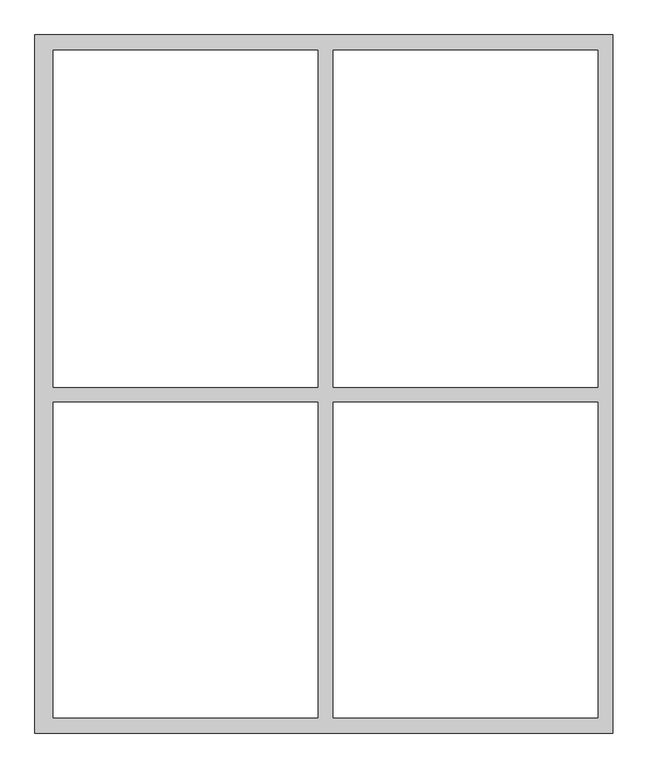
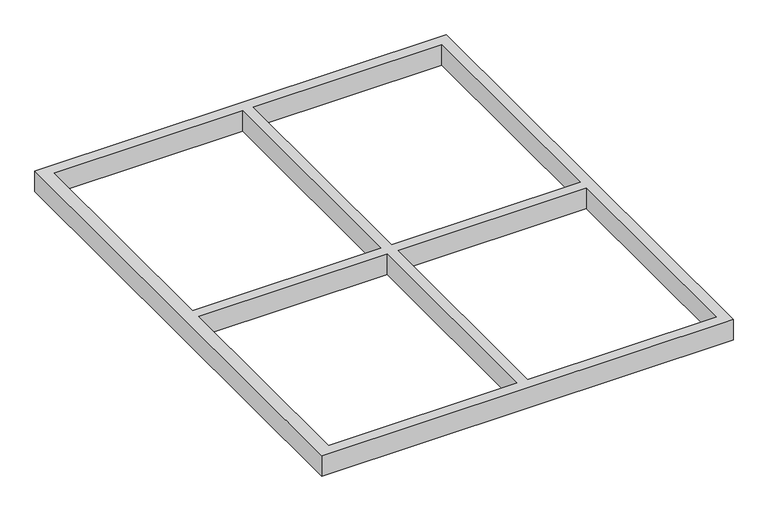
"""IFC4 building model written with IfcOpenShell, lengths in millimetres: proxy geometry, Витраж потолок : Витраж потолок."""

from ifc_helpers import new_model, si_unit, frame, origin, place, context, project, spatial, polyline, outline, extrude, source, transform, mapped, element, save


def generic_models_366e0e44(model_context):
    return source(origin(), model_context, "Body", "SweptSolid", [
        extrude(outline(polyline([(9345.1019042, 1950.3002517), (7445.0, 1950.3002517), (7445.0, 4245.2487567), (9345.1019042, 4245.2487567), (9345.1019042, 1950.3002517)]), holes=[polyline([(8375.1019042, 2000.3002517), (8375.1019042, 3037.8002517), (7505.1019042, 3037.8002517), (7505.1019042, 2000.3002517), (8375.1019042, 2000.3002517)]), polyline([(7505.1019042, 3087.8002517), (8375.1019042, 3087.8002517), (8375.1019042, 4195.2487567), (7505.1019042, 4195.2487567), (7505.1019042, 3087.8002517)]), polyline([(8425.1019042, 4195.2487567), (8425.1019042, 3087.8002517), (9295.1019042, 3087.8002517), (9295.1019042, 4195.2487567), (8425.1019042, 4195.2487567)]), polyline([(9295.1019042, 3037.8002517), (8425.1019042, 3037.8002517), (8425.1019042, 2000.3002517), (9295.1019042, 2000.3002517), (9295.1019042, 3037.8002517)])]), frame((0.0, 0.0, 2950.0), z_axis=(0.0, 0.0, 1.0), x_axis=(1.0, 0.0, 0.0)), (0.0, 0.0, 1.0), 100.0),
    ])


if __name__ == "__main__":
    model = new_model("IFC4")
    model_context = context("Model", 3, world=origin())
    ifc_project = project(units=[si_unit("LENGTHUNIT", "METRE", prefix="MILLI")], contexts=[model_context])
    site = spatial("IfcSite", under=ifc_project)
    building = spatial("IfcBuilding", under=site)
    placement = place(None, origin())
    generic_models_shape = generic_models_366e0e44(model_context)
    element("IfcBuildingElementProxy", 1, Name="Витраж потолок : Витраж потолок", ObjectType="Витраж потолок : Витраж потолок", at=placement, inside=building, context=model_context, shape_type="MappedRepresentation", body=[
        mapped(generic_models_shape, transform((0.0, 0.0, 0.0), x_axis=(1.0, 0.0, 0.0), y_axis=(0.0, 1.0, 0.0), z_axis=(0.0, 0.0, 1.0))),
    ])
    save(model, "model.ifc")
